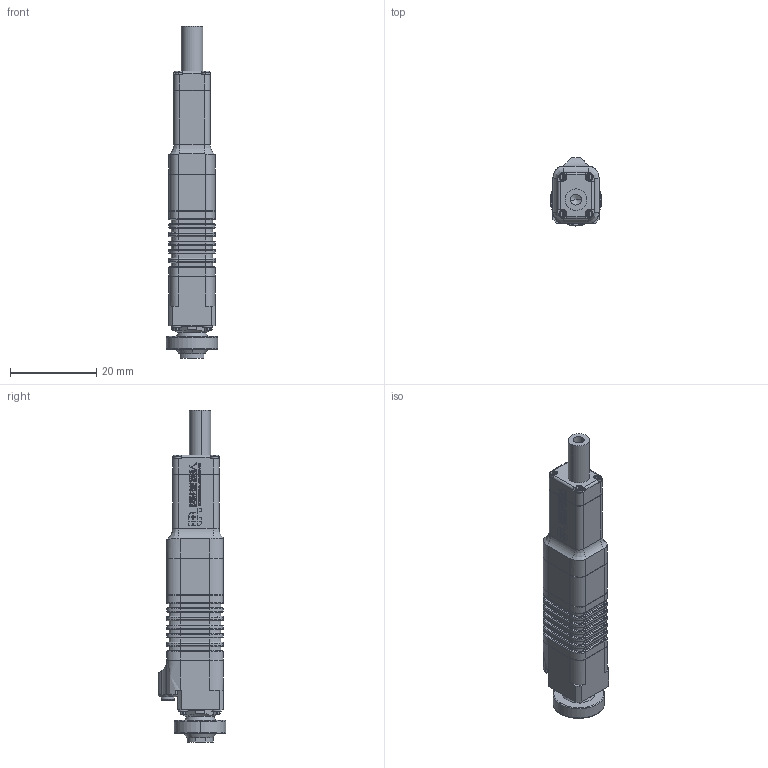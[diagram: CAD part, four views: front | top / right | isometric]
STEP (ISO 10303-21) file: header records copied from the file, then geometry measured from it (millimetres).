
FILE_DESCRIPTION (( 'STEP AP214' ), '1' );
FILE_NAME ('LAF10-0x4D--.STEP', '2022-12-06T11:27:51', ( '' ), ( '' ), '', '', '' );
FILE_SCHEMA (( 'AUTOMOTIVE_DESIGN' ));
Length unit declared in the file: millimetre
Products named in the file (6): exA820109-015祥凄詩杶奪_1; 鎮湛茼曹え蹟譫; 菜え; NSK-GE4C; Part1a_1; LAF10-0x4D--
Assembly tree (5 placements, depth 2):
  LAF10-0x4D--
    exA820109-015祥凄詩杶奪_1
    Part1a_1
    NSK-GE4C
    菜え
    鎮湛茼曹え蹟譫
Bounding box: 12 x 15.8 x 77.2 mm (x, y, z)
Volume: 7707.5 mm3; surface area: 4292.8 mm2
Topology: 5 solids, 14 shells, 1654 faces, 4323 edges, 2810 vertices
Faces by surface type: plane 865, bspline 599, cylinder 148, cone 42
Entity records: 72084 total; most frequent: CARTESIAN_POINT 27652, ORIENTED_EDGE 8642, DIRECTION 5688, EDGE_CURVE 4321, VERTEX_POINT 2810, VECTOR 2764, LINE 2764, EDGE_LOOP 1785
